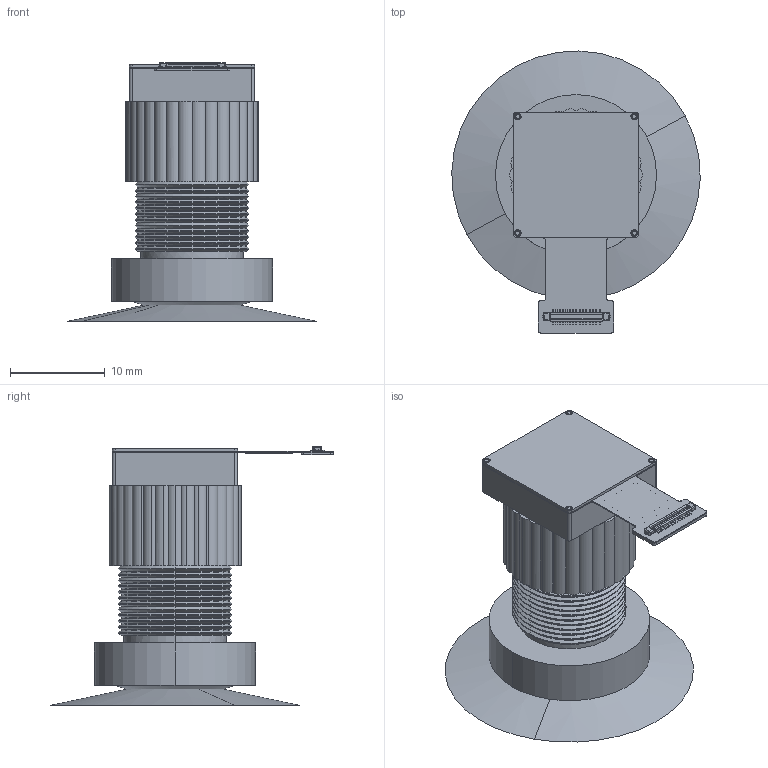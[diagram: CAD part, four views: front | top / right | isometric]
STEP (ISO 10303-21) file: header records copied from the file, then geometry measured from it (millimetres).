
FILE_DESCRIPTION(('CATIA V5 STEP Exchange'),'2;1');
FILE_NAME('C:\Users\Administrator\Desktop\ZS1501-A (VD5943CE) 3D FOV155° 251018.stp','2025-10-18T03:02:57+00:00',('none'),('none'),'CATIA Version 5 Release 21 GA (IN-10)','CATIA V5 STEP AP214','none');
FILE_SCHEMA(('AUTOMOTIVE_DESIGN { 1 0 10303 214 1 1 1 1 }'));
Products named in the file (27): ZS1501-A; FPC; STELL; Copy (1) of BM28B0.6-30DP; HOLD; LENS; ANGLE; STELL2; SENSOR; 1940; SENSOR-; WIRE-; PCB; glass; 支架; Copy (1) of GLUE; Part3; Copy (1) of 0201 ji; 0201; C148; User_Library-0201(0603M)_Cap; Copy (1) of 0201 ji.2; 0603; User_Library-0603(1608M)_Cap; 0402.4; User_Library-Res-0402^0402电阻; QR code
Assembly tree (45 placements, depth 6):
  ZS1501-A
    FPC
    STELL
    Copy (1) of BM28B0.6-30DP
    HOLD
    LENS
    ANGLE
    STELL2
    SENSOR
      1940
        SENSOR-
        WIRE-
      PCB
      glass
      支架
      Copy (1) of GLUE
      Part3
      Copy (1) of 0201 ji
        0201  x6
          C148
            User_Library-0201(0603M)_Cap
      Copy (1) of 0201 ji.2
        0201  x6
          C148
            User_Library-0201(0603M)_Cap
    0603  x6
      User_Library-0603(1608M)_Cap
    0402.4  x4
      User_Library-Res-0402^0402电阻
    QR code
Bounding box: 26.23 x 29.81 x 27.32 mm (x, y, z)
Volume: 3408.8 mm3; surface area: 4908.3 mm2
Topology: 184 solids, 185 shells, 4716 faces, 13093 edges, 9797 vertices
Faces by surface type: plane 2479, bspline 1209, cylinder 830, cone 118, sphere 68, torus 12
Entity records: 106330 total; most frequent: CARTESIAN_POINT 27925, ORIENTED_EDGE 11090, DIRECTION 10521, EDGE_CURVE 5546, VECTOR 5511, LINE 5511, VERTEX_POINT 3553, PRESENTATION_STYLE_ASSIGNMENT 3231
